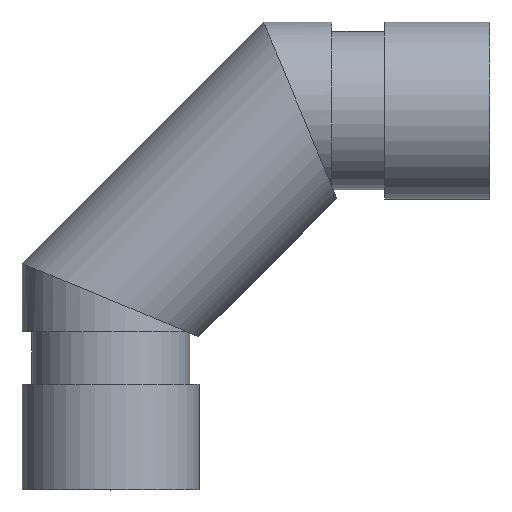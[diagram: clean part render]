
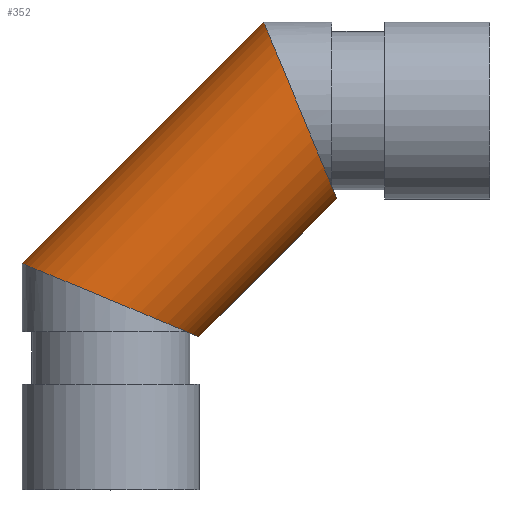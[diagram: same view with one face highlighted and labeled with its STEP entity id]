
A CAD part, top view. The second image highlights one B-rep face of the part: STEP entity #352.
In plain terms, the highlighted cylindrical face has radius 13.335 mm (diameter 26.67 mm), a full revolution.
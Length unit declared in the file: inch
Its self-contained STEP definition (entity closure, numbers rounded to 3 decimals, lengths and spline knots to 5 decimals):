
#45=ELLIPSE('',#384,0.56826,0.525);
#46=ELLIPSE('',#388,0.56826,0.525);
#47=ELLIPSE('',#389,0.56826,0.525);
#48=ELLIPSE('',#390,0.56826,0.525);
#49=ELLIPSE('',#391,0.56826,0.525);
#50=ELLIPSE('',#403,0.56826,0.525);
#51=ELLIPSE('',#405,0.56826,0.525);
#52=ELLIPSE('',#406,0.56826,0.525);
#53=ELLIPSE('',#407,0.56826,0.525);
#54=ELLIPSE('',#408,0.56826,0.525);
#88=FACE_OUTER_BOUND('',#111,.T.);
#111=EDGE_LOOP('',(#287,#288,#289,#290,#291,#292,#293,#294,#295,#296,#297,
#298));
#121=LINE('',#665,#129);
#129=VECTOR('',#546,0.525);
#153=VERTEX_POINT('',#592);
#154=VERTEX_POINT('',#593);
#156=VERTEX_POINT('',#602);
#157=VERTEX_POINT('',#604);
#158=VERTEX_POINT('',#606);
#159=VERTEX_POINT('',#610);
#160=VERTEX_POINT('',#611);
#166=VERTEX_POINT('',#630);
#167=VERTEX_POINT('',#632);
#168=VERTEX_POINT('',#634);
#186=EDGE_CURVE('',#154,#153,#45,.T.);
#188=EDGE_CURVE('',#156,#154,#46,.T.);
#189=EDGE_CURVE('',#156,#157,#47,.T.);
#190=EDGE_CURVE('',#157,#158,#48,.T.);
#191=EDGE_CURVE('',#153,#158,#49,.T.);
#200=EDGE_CURVE('',#159,#160,#50,.T.);
#201=EDGE_CURVE('',#160,#166,#51,.T.);
#202=EDGE_CURVE('',#167,#166,#52,.T.);
#203=EDGE_CURVE('',#168,#167,#53,.T.);
#204=EDGE_CURVE('',#168,#159,#54,.T.);
#218=EDGE_CURVE('',#157,#167,#121,.T.);
#287=ORIENTED_EDGE('',*,*,#189,.F.);
#288=ORIENTED_EDGE('',*,*,#188,.T.);
#289=ORIENTED_EDGE('',*,*,#186,.T.);
#290=ORIENTED_EDGE('',*,*,#191,.T.);
#291=ORIENTED_EDGE('',*,*,#190,.F.);
#292=ORIENTED_EDGE('',*,*,#218,.T.);
#293=ORIENTED_EDGE('',*,*,#202,.T.);
#294=ORIENTED_EDGE('',*,*,#201,.F.);
#295=ORIENTED_EDGE('',*,*,#200,.F.);
#296=ORIENTED_EDGE('',*,*,#204,.F.);
#297=ORIENTED_EDGE('',*,*,#203,.T.);
#298=ORIENTED_EDGE('',*,*,#218,.F.);
#315=CYLINDRICAL_SURFACE('',#423,0.525);
#352=ADVANCED_FACE('',(#88),#315,.T.);
#384=AXIS2_PLACEMENT_3D('',#597,#461,#462);
#388=AXIS2_PLACEMENT_3D('',#603,#469,#470);
#389=AXIS2_PLACEMENT_3D('',#605,#471,#472);
#390=AXIS2_PLACEMENT_3D('',#607,#473,#474);
#391=AXIS2_PLACEMENT_3D('',#608,#475,#476);
#403=AXIS2_PLACEMENT_3D('',#628,#500,#501);
#405=AXIS2_PLACEMENT_3D('',#631,#504,#505);
#406=AXIS2_PLACEMENT_3D('',#633,#506,#507);
#407=AXIS2_PLACEMENT_3D('',#635,#508,#509);
#408=AXIS2_PLACEMENT_3D('',#636,#510,#511);
#423=AXIS2_PLACEMENT_3D('',#664,#544,#545);
#461=DIRECTION('center_axis',(0.383,0.924,0.));
#462=DIRECTION('ref_axis',(0.924,-0.383,0.));
#469=DIRECTION('center_axis',(0.383,0.924,0.));
#470=DIRECTION('ref_axis',(0.924,-0.383,0.));
#471=DIRECTION('center_axis',(-0.383,-0.924,0.));
#472=DIRECTION('ref_axis',(0.924,-0.383,0.));
#473=DIRECTION('center_axis',(-0.383,-0.924,0.));
#474=DIRECTION('ref_axis',(0.924,-0.383,0.));
#475=DIRECTION('center_axis',(0.383,0.924,0.));
#476=DIRECTION('ref_axis',(0.924,-0.383,0.));
#500=DIRECTION('center_axis',(0.924,0.383,0.));
#501=DIRECTION('ref_axis',(0.383,-0.924,0.));
#504=DIRECTION('center_axis',(0.924,0.383,0.));
#505=DIRECTION('ref_axis',(0.383,-0.924,0.));
#506=DIRECTION('center_axis',(-0.924,-0.383,0.));
#507=DIRECTION('ref_axis',(0.383,-0.924,0.));
#508=DIRECTION('center_axis',(-0.924,-0.383,0.));
#509=DIRECTION('ref_axis',(0.383,-0.924,0.));
#510=DIRECTION('center_axis',(0.924,0.383,0.));
#511=DIRECTION('ref_axis',(0.383,-0.924,0.));
#544=DIRECTION('center_axis',(-0.707,-0.707,0.));
#545=DIRECTION('ref_axis',(0.707,-0.707,0.));
#546=DIRECTION('',(0.707,0.707,0.));
#592=CARTESIAN_POINT('',(0.45146,-1.312,-0.26798));
#593=CARTESIAN_POINT('',(0.45146,-1.312,0.26798));
#597=CARTESIAN_POINT('Origin',(0.,-1.125,0.));
#602=CARTESIAN_POINT('',(0.,-1.125,0.525));
#603=CARTESIAN_POINT('Origin',(0.,-1.125,0.));
#604=CARTESIAN_POINT('',(-0.525,-0.90754,0.));
#605=CARTESIAN_POINT('Origin',(0.,-1.125,0.));
#606=CARTESIAN_POINT('',(0.,-1.125,-0.525));
#607=CARTESIAN_POINT('Origin',(0.,-1.125,0.));
#608=CARTESIAN_POINT('Origin',(0.,-1.125,0.));
#610=CARTESIAN_POINT('',(1.312,-0.45146,0.26798));
#611=CARTESIAN_POINT('',(1.312,-0.45146,-0.26798));
#628=CARTESIAN_POINT('Origin',(1.125,0.,0.));
#630=CARTESIAN_POINT('',(1.125,0.,-0.525));
#631=CARTESIAN_POINT('Origin',(1.125,0.,0.));
#632=CARTESIAN_POINT('',(0.90754,0.525,0.));
#633=CARTESIAN_POINT('Origin',(1.125,0.,0.));
#634=CARTESIAN_POINT('',(1.125,0.,0.525));
#635=CARTESIAN_POINT('Origin',(1.125,0.,0.));
#636=CARTESIAN_POINT('Origin',(1.125,0.,0.));
#664=CARTESIAN_POINT('Origin',(1.125,0.,0.));
#665=CARTESIAN_POINT('',(0.75377,0.37123,0.));
